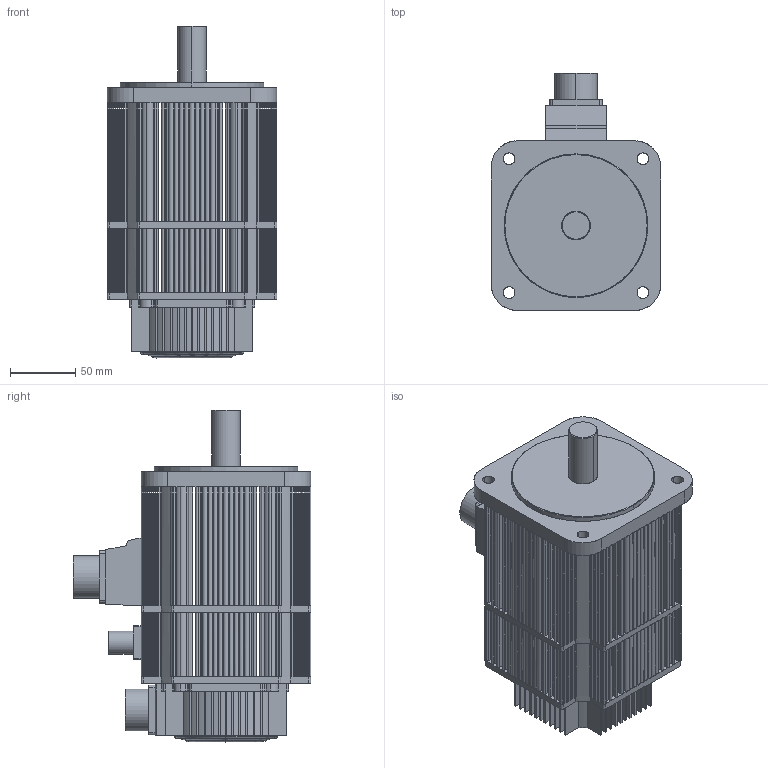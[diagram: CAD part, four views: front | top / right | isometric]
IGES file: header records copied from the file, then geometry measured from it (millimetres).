
Start section: SolidWorks IGES file using analytic representation for surfaces
Global section: file name: H:\estun\zhangjian\电机外观文件（solidworks2009 零件 文件）\IGS\EMG-10A_with holding brake.IGS; native system: SolidWorks 2009; preprocessor: SolidWorks 2009; author: Administrator; date: 100804.094107; units: millimetre
Bounding box: 130 x 182 x 254.5 mm (x, y, z)
Surface area: 233549.7 mm2 (no closed solid volume)
Topology: 0 solids, 0 shells, 1259 faces, 12905 edges, 12905 vertices
Faces by surface type: bspline 711, revolution 548
